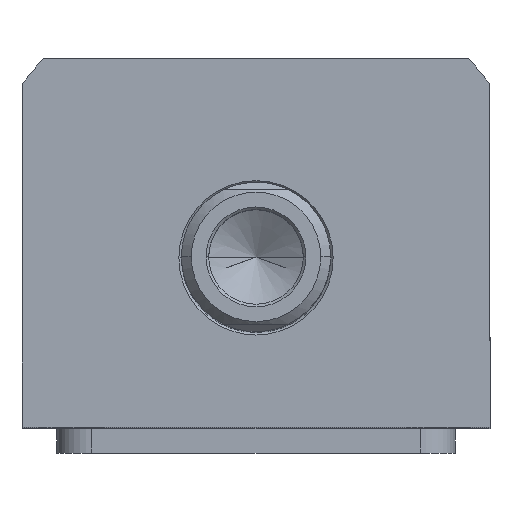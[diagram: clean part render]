
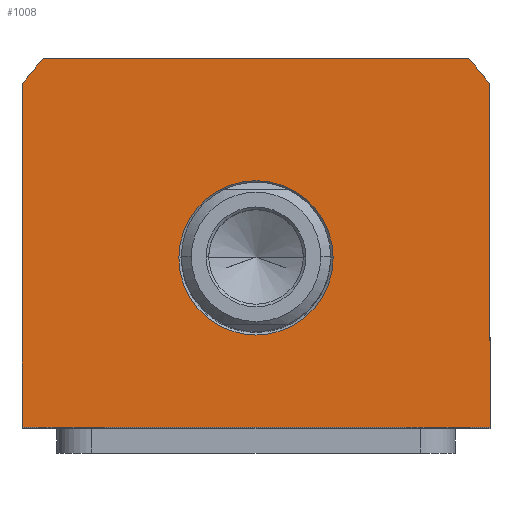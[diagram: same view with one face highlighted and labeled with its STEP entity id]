
A CAD part, top view. The second image highlights one B-rep face of the part: STEP entity #1008.
In plain terms, the highlighted planar face has unit normal (0, 0, 1).
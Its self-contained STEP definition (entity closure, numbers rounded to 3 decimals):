
#126 = CARTESIAN_POINT ( 'NONE',  ( -47., -34., 87.5 ) ) ;
#147 = VERTEX_POINT ( 'NONE', #8139 ) ;
#216 = ORIENTED_EDGE ( 'NONE', *, *, #8169, .T. ) ;
#300 = LINE ( 'NONE', #870, #1894 ) ;
#403 = CARTESIAN_POINT ( 'NONE',  ( 0., 0., 87.5 ) ) ;
#585 = AXIS2_PLACEMENT_3D ( 'NONE', #1420, #9645, #5109 ) ;
#636 = EDGE_CURVE ( 'NONE', #4121, #9717, #6856, .T. ) ;
#745 = EDGE_CURVE ( 'NONE', #1798, #147, #11243, .T. ) ;
#844 = DIRECTION ( 'NONE',  ( 1., 0., 0. ) ) ;
#870 = CARTESIAN_POINT ( 'NONE',  ( -47., -34., 87.5 ) ) ;
#969 = EDGE_CURVE ( 'NONE', #9717, #6685, #8228, .T. ) ;
#1008 = ADVANCED_FACE ( 'NONE', ( #10661, #11822 ), #9080, .T. ) ;
#1222 = CARTESIAN_POINT ( 'NONE',  ( -47., 34.832, 87.5 ) ) ;
#1368 = CARTESIAN_POINT ( 'NONE',  ( 47., 34.832, 87.5 ) ) ;
#1420 = CARTESIAN_POINT ( 'NONE',  ( 0., 0., 87.5 ) ) ;
#1482 = AXIS2_PLACEMENT_3D ( 'NONE', #1787, #10102, #2766 ) ;
#1489 = EDGE_LOOP ( 'NONE', ( #2292, #9096, #4969, #8562, #9433, #7683 ) ) ;
#1743 = DIRECTION ( 'NONE',  ( 0., 0., 1. ) ) ;
#1787 = CARTESIAN_POINT ( 'NONE',  ( 0., 0., 87.5 ) ) ;
#1798 = VERTEX_POINT ( 'NONE', #126 ) ;
#1862 = CARTESIAN_POINT ( 'NONE',  ( 0., 0., 87.5 ) ) ;
#1894 = VECTOR ( 'NONE', #5536, 1000. ) ;
#2292 = ORIENTED_EDGE ( 'NONE', *, *, #745, .T. ) ;
#2580 = LINE ( 'NONE', #1368, #5906 ) ;
#2604 = VERTEX_POINT ( 'NONE', #5919 ) ;
#2766 = DIRECTION ( 'NONE',  ( 1., 0., 0. ) ) ;
#2819 = AXIS2_PLACEMENT_3D ( 'NONE', #10468, #6785, #6828 ) ;
#3269 = CARTESIAN_POINT ( 'NONE',  ( 15.5, 0., 87.5 ) ) ;
#3533 = DIRECTION ( 'NONE',  ( -1., 0., 0. ) ) ;
#3980 = ORIENTED_EDGE ( 'NONE', *, *, #7128, .T. ) ;
#4121 = VERTEX_POINT ( 'NONE', #7558 ) ;
#4186 = CIRCLE ( 'NONE', #10808, 15.5 ) ;
#4520 = VERTEX_POINT ( 'NONE', #3269 ) ;
#4969 = ORIENTED_EDGE ( 'NONE', *, *, #11272, .T. ) ;
#5109 = DIRECTION ( 'NONE',  ( 1., 0., 0. ) ) ;
#5176 = DIRECTION ( 'NONE',  ( 0., 1., 0. ) ) ;
#5220 = EDGE_CURVE ( 'NONE', #6685, #1798, #300, .T. ) ;
#5536 = DIRECTION ( 'NONE',  ( 0., -1., 0. ) ) ;
#5784 = DIRECTION ( 'NONE',  ( 0., 0., -1. ) ) ;
#5906 = VECTOR ( 'NONE', #5176, 1000. ) ;
#5919 = CARTESIAN_POINT ( 'NONE',  ( 47., 34.832, 87.5 ) ) ;
#6025 = AXIS2_PLACEMENT_3D ( 'NONE', #1862, #1743, #844 ) ;
#6685 = VERTEX_POINT ( 'NONE', #1222 ) ;
#6785 = DIRECTION ( 'NONE',  ( 0., 0., 1. ) ) ;
#6828 = DIRECTION ( 'NONE',  ( 1., 0., 0. ) ) ;
#6847 = CARTESIAN_POINT ( 'NONE',  ( -42.688, 40., 87.5 ) ) ;
#6856 = LINE ( 'NONE', #10002, #9248 ) ;
#7001 = CIRCLE ( 'NONE', #585, 15.5 ) ;
#7128 = EDGE_CURVE ( 'NONE', #7801, #4520, #7001, .T. ) ;
#7144 = CIRCLE ( 'NONE', #2819, 58.5 ) ;
#7558 = CARTESIAN_POINT ( 'NONE',  ( 42.688, 40., 87.5 ) ) ;
#7611 = DIRECTION ( 'NONE',  ( 1., 0., 0. ) ) ;
#7683 = ORIENTED_EDGE ( 'NONE', *, *, #5220, .T. ) ;
#7801 = VERTEX_POINT ( 'NONE', #8097 ) ;
#8097 = CARTESIAN_POINT ( 'NONE',  ( -15.5, 0., 87.5 ) ) ;
#8139 = CARTESIAN_POINT ( 'NONE',  ( 47., -34., 87.5 ) ) ;
#8169 = EDGE_CURVE ( 'NONE', #4520, #7801, #4186, .T. ) ;
#8228 = CIRCLE ( 'NONE', #1482, 58.5 ) ;
#8267 = EDGE_CURVE ( 'NONE', #147, #2604, #2580, .T. ) ;
#8562 = ORIENTED_EDGE ( 'NONE', *, *, #636, .T. ) ;
#8587 = DIRECTION ( 'NONE',  ( 1., 0., 0. ) ) ;
#9080 = PLANE ( 'NONE',  #6025 ) ;
#9096 = ORIENTED_EDGE ( 'NONE', *, *, #8267, .T. ) ;
#9243 = EDGE_LOOP ( 'NONE', ( #216, #3980 ) ) ;
#9248 = VECTOR ( 'NONE', #3533, 1000. ) ;
#9433 = ORIENTED_EDGE ( 'NONE', *, *, #969, .T. ) ;
#9645 = DIRECTION ( 'NONE',  ( 0., 0., -1. ) ) ;
#9717 = VERTEX_POINT ( 'NONE', #6847 ) ;
#10002 = CARTESIAN_POINT ( 'NONE',  ( -42.688, 40., 87.5 ) ) ;
#10102 = DIRECTION ( 'NONE',  ( 0., 0., 1. ) ) ;
#10237 = VECTOR ( 'NONE', #7611, 1000. ) ;
#10406 = CARTESIAN_POINT ( 'NONE',  ( 47., -34., 87.5 ) ) ;
#10468 = CARTESIAN_POINT ( 'NONE',  ( 0., 0., 87.5 ) ) ;
#10661 = FACE_BOUND ( 'NONE', #9243, .T. ) ;
#10808 = AXIS2_PLACEMENT_3D ( 'NONE', #403, #5784, #8587 ) ;
#11243 = LINE ( 'NONE', #10406, #10237 ) ;
#11272 = EDGE_CURVE ( 'NONE', #2604, #4121, #7144, .T. ) ;
#11822 = FACE_OUTER_BOUND ( 'NONE', #1489, .T. ) ;
